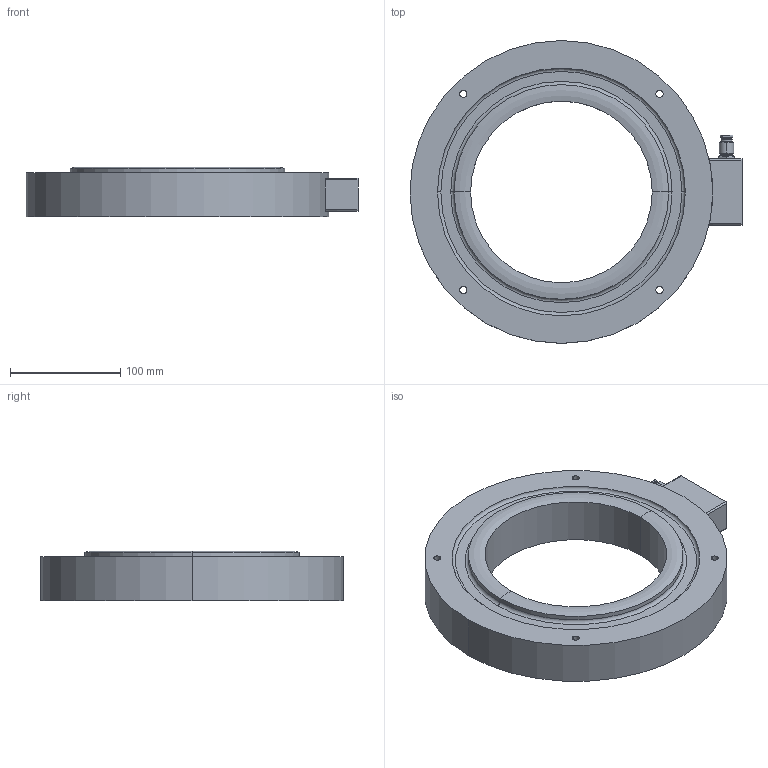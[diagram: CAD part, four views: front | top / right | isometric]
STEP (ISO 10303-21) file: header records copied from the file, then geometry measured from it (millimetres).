
FILE_DESCRIPTION((''),'1');
FILE_NAME('LRLA_125000-150000-180000_kg.step','2018-01-10T16:19:07',(''),(''),'','','');
FILE_SCHEMA(('AUTOMOTIVE_DESIGN { 1 0 10303 214 1 1 1 1 }'));
Products named in the file (4): LRLA 125000-150000-180000_kg; LRLA body 01; LRLA part 02; LRLA cable gland 01
Assembly tree (3 placements, depth 2):
  LRLA 125000-150000-180000_kg
    LRLA body 01
    LRLA part 02
    LRLA cable gland 01
Bounding box: 301.5 x 275 x 44.89 mm (x, y, z)
Volume: 1538541.1 mm3; surface area: 151604.8 mm2
Topology: 3 solids, 3 shells, 99 faces, 216 edges, 130 vertices
Faces by surface type: cylinder 47, plane 34, torus 12, cone 6
Entity records: 3653 total; most frequent: DIRECTION 526, CARTESIAN_POINT 485, ORIENTED_EDGE 432, EDGE_CURVE 216, AXIS2_PLACEMENT_3D 211, VERTEX_POINT 130, EDGE_LOOP 116, LINE 104
